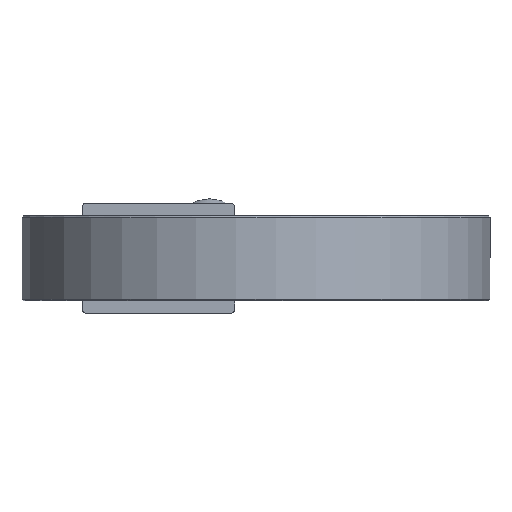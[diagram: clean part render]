
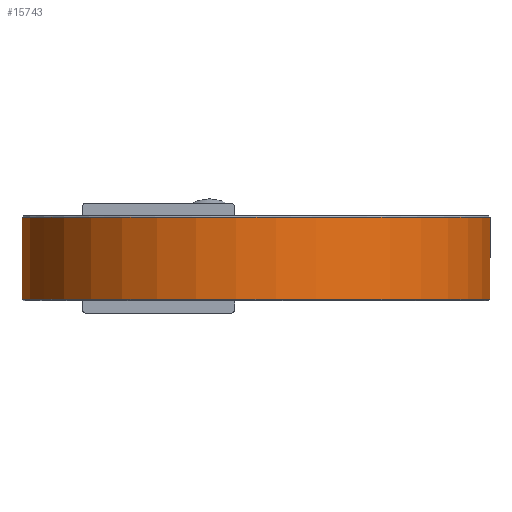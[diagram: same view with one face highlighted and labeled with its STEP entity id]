
A CAD part, left-side view. The second image highlights one B-rep face of the part: STEP entity #15743.
In plain terms, the highlighted cylindrical face has radius 192.5 mm (diameter 385 mm), a partial arc.
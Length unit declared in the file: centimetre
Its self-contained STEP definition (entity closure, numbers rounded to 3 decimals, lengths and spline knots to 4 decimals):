
#2904=VECTOR('',#20059,1.);
#2905=VECTOR('',#20060,1.);
#3905=LINE('',#34112,#2904);
#3906=LINE('',#34118,#2905);
#6145=VERTEX_POINT('',#34108);
#6146=VERTEX_POINT('',#34109);
#6147=VERTEX_POINT('',#34113);
#6148=VERTEX_POINT('',#34117);
#6698=CIRCLE('',#16965,19.25);
#6703=CIRCLE('',#16973,19.25);
#8645=EDGE_CURVE('',#6146,#6145,#6698,.T.);
#8646=EDGE_CURVE('',#6145,#6147,#3905,.T.);
#8648=EDGE_CURVE('',#6146,#6148,#3906,.T.);
#8653=EDGE_CURVE('',#6147,#6148,#6703,.T.);
#12556=ORIENTED_EDGE('',*,*,#8645,.F.);
#12557=ORIENTED_EDGE('',*,*,#8648,.T.);
#12558=ORIENTED_EDGE('',*,*,#8653,.F.);
#12559=ORIENTED_EDGE('',*,*,#8646,.F.);
#13723=EDGE_LOOP('',(#12556,#12557,#12558,#12559));
#14869=FACE_BOUND('',#13723,.T.);
#15743=ADVANCED_FACE('',(#14869),#34431,.T.);
#16965=AXIS2_PLACEMENT_3D('',#34110,#20056,#20057);
#16973=AXIS2_PLACEMENT_3D('',#34129,#20072,#20073);
#16983=AXIS2_PLACEMENT_3D('',#34142,#20089,#20090);
#20056=DIRECTION('',(0.,0.,1.));
#20057=DIRECTION('',(-19.25,0.,0.));
#20059=DIRECTION('',(0.,0.,-1.));
#20060=DIRECTION('',(0.,0.,-1.));
#20072=DIRECTION('',(0.,0.,-1.));
#20073=DIRECTION('',(-19.25,0.,0.));
#20089=DIRECTION('',(0.,0.,-1.));
#20090=DIRECTION('',(-19.25,0.,0.));
#34108=CARTESIAN_POINT('',(-5.519,-8.7289,5.5968));
#34109=CARTESIAN_POINT('',(-5.519,-4.8097,5.5968));
#34110=CARTESIAN_POINT('',(-24.669,-6.7693,5.5968));
#34112=CARTESIAN_POINT('',(-5.519,-8.7289,5.7468));
#34113=CARTESIAN_POINT('',(-5.519,-8.7289,-1.1032));
#34117=CARTESIAN_POINT('',(-5.519,-4.8097,-1.1032));
#34118=CARTESIAN_POINT('',(-5.519,-4.8097,5.7468));
#34129=CARTESIAN_POINT('',(-24.669,-6.7693,-1.1032));
#34142=CARTESIAN_POINT('',(-24.669,-6.7693,5.7468));
#34431=CYLINDRICAL_SURFACE('',#16983,19.25);
